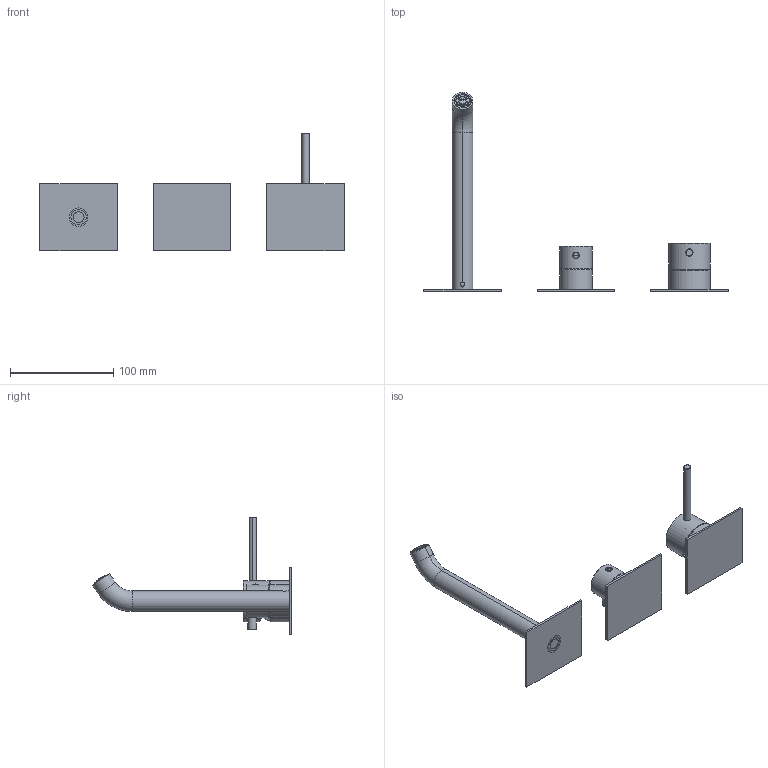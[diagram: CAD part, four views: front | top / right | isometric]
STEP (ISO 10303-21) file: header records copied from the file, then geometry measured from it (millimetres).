
FILE_DESCRIPTION((''),'2;1');
FILE_NAME('69568V221_SW0001','2025-11-17T16:36:22',('carloff'),(''),'CREO PARAMETRIC BY PTC INC, 2022014','CREO PARAMETRIC BY PTC INC, 2022014','');
FILE_SCHEMA(('CONFIG_CONTROL_DESIGN'));
Length unit declared in the file: millimetre
Products named in the file (1): 69568V221_SW0001
Bounding box: 295 x 193.13 x 114 mm (x, y, z)
Volume: 134185.7 mm3; surface area: 88344.8 mm2
Topology: 4 solids, 4 shells, 2060 faces, 6105 edges, 4065 vertices
Faces by surface type: plane 1505, cylinder 250, torus 174, bspline 79, cone 41, sphere 8, extrusion 3
Entity records: 89159 total; most frequent: CARTESIAN_POINT 37657, ORIENTED_EDGE 12190, DIRECTION 8525, EDGE_CURVE 6095, VERTEX_POINT 4065, AXIS2_PLACEMENT_3D 2962, VECTOR 2601, LINE 2598
